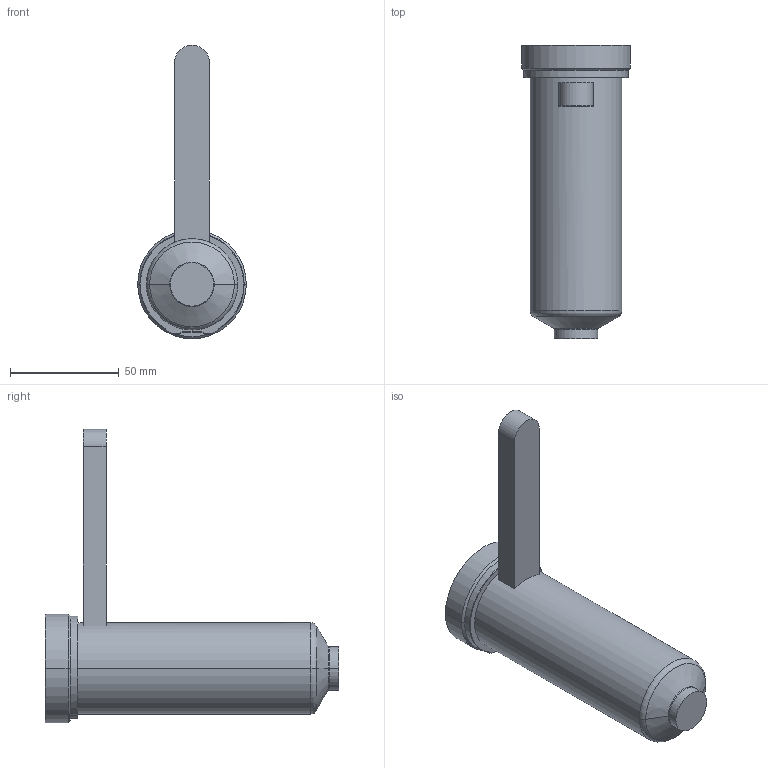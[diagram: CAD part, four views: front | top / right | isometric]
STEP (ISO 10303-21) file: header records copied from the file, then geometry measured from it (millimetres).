
FILE_DESCRIPTION((''),'2;1');
FILE_NAME('EO16_PG-FB_STD_120_COT','2024-02-19T11:41:17',('sundharh'),(''),'CREO PARAMETRIC BY PTC INC, 2023154','CREO PARAMETRIC BY PTC INC, 2023154','');
FILE_SCHEMA(('CONFIG_CONTROL_DESIGN'));
Length unit declared in the file: millimetre
Products named in the file (1): EO16_PG-FB_STD_120_COT
Bounding box: 50 x 135 x 135 mm (x, y, z)
Volume: 200898.7 mm3; surface area: 25584.9 mm2
Topology: 1 solids, 1 shells, 31 faces, 67 edges, 40 vertices
Faces by surface type: cylinder 11, plane 9, torus 7, cone 4
Entity records: 967 total; most frequent: CARTESIAN_POINT 234, DIRECTION 159, ORIENTED_EDGE 134, AXIS2_PLACEMENT_3D 67, EDGE_CURVE 67, VERTEX_POINT 40, CIRCLE 36, EDGE_LOOP 33
